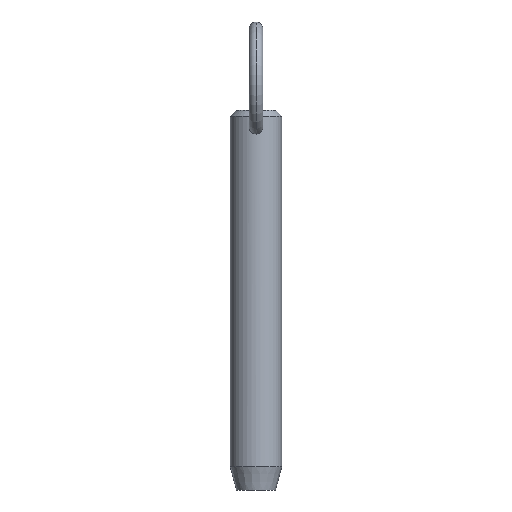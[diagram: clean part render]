
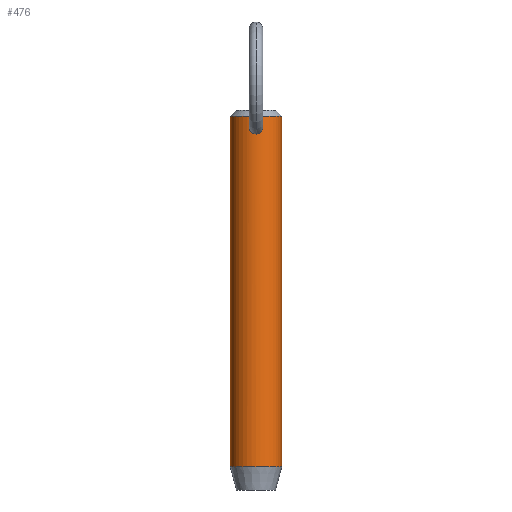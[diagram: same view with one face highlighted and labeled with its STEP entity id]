
A CAD part, front view. The second image highlights one B-rep face of the part: STEP entity #476.
In plain terms, the highlighted cylindrical face has radius 5.55 mm (diameter 11.1 mm), a partial arc.
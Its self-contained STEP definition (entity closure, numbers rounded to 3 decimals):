
#7 = VECTOR ( 'NONE', #30, 1000. ) ;
#11 = EDGE_CURVE ( 'NONE', #221, #245, #247, .T. ) ;
#22 = CARTESIAN_POINT ( 'NONE',  ( 1.486, -5.347, 64.174 ) ) ;
#30 = DIRECTION ( 'NONE',  ( 0., 0., -1. ) ) ;
#31 = CARTESIAN_POINT ( 'NONE',  ( 0.214, -5.547, 65.728 ) ) ;
#37 = EDGE_CURVE ( 'NONE', #245, #100, #113, .T. ) ;
#39 = CARTESIAN_POINT ( 'NONE',  ( -0.976, -5.464, 62.631 ) ) ;
#43 = EDGE_CURVE ( 'NONE', #221, #388, #328, .T. ) ;
#44 = ORIENTED_EDGE ( 'NONE', *, *, #92, .T. ) ;
#52 = CARTESIAN_POINT ( 'NONE',  ( 5.55, 0., -9.2 ) ) ;
#54 = CARTESIAN_POINT ( 'NONE',  ( 0., 0., 61. ) ) ;
#61 = CARTESIAN_POINT ( 'NONE',  ( 0.977, -5.464, 62.632 ) ) ;
#69 = CARTESIAN_POINT ( 'NONE',  ( 0.807, -5.492, 62.506 ) ) ;
#73 = CARTESIAN_POINT ( 'NONE',  ( 0., -5.55, 65.745 ) ) ;
#83 = CARTESIAN_POINT ( 'NONE',  ( 0., -5.55, 62.277 ) ) ;
#87 = EDGE_CURVE ( 'NONE', #100, #388, #508, .T. ) ;
#92 = EDGE_CURVE ( 'NONE', #359, #232, #276, .T. ) ;
#95 = CARTESIAN_POINT ( 'NONE',  ( 0.421, -5.535, 62.332 ) ) ;
#100 = VERTEX_POINT ( 'NONE', #292 ) ;
#101 = ORIENTED_EDGE ( 'NONE', *, *, #43, .F. ) ;
#102 = EDGE_CURVE ( 'NONE', #232, #359, #313, .T. ) ;
#104 = CARTESIAN_POINT ( 'NONE',  ( 0.786, -5.497, 65.457 ) ) ;
#105 = CARTESIAN_POINT ( 'NONE',  ( 5.55, 0., 61. ) ) ;
#108 = CARTESIAN_POINT ( 'NONE',  ( 0.106, -5.55, 65.745 ) ) ;
#112 = CARTESIAN_POINT ( 'NONE',  ( -0.212, -5.547, 62.288 ) ) ;
#113 = LINE ( 'NONE', #377, #7 ) ;
#114 = DIRECTION ( 'NONE',  ( 0., 0., 1. ) ) ;
#115 = CARTESIAN_POINT ( 'NONE',  ( 0., 0., -9.2 ) ) ;
#138 = DIRECTION ( 'NONE',  ( 0., 0., -1. ) ) ;
#139 = CARTESIAN_POINT ( 'NONE',  ( 1.503, -5.343, 63.859 ) ) ;
#141 = CARTESIAN_POINT ( 'NONE',  ( 1.055, -5.449, 62.705 ) ) ;
#142 = CARTESIAN_POINT ( 'NONE',  ( -0.416, -5.535, 65.667 ) ) ;
#146 = CARTESIAN_POINT ( 'NONE',  ( 1.194, -5.422, 64.971 ) ) ;
#152 = CARTESIAN_POINT ( 'NONE',  ( -0.211, -5.547, 65.729 ) ) ;
#153 = CARTESIAN_POINT ( 'NONE',  ( 0., -5.55, 65.745 ) ) ;
#154 = CYLINDRICAL_SURFACE ( 'NONE', #321, 5.55 ) ;
#156 = CARTESIAN_POINT ( 'NONE',  ( -1.485, -5.348, 64.179 ) ) ;
#159 = CARTESIAN_POINT ( 'NONE',  ( -0.785, -5.497, 65.458 ) ) ;
#163 = FACE_OUTER_BOUND ( 'NONE', #451, .T. ) ;
#182 = DIRECTION ( 'NONE',  ( 0., 0., -1. ) ) ;
#183 = ORIENTED_EDGE ( 'NONE', *, *, #87, .T. ) ;
#184 = AXIS2_PLACEMENT_3D ( 'NONE', #430, #182, #185 ) ;
#185 = DIRECTION ( 'NONE',  ( 1., 0., 0. ) ) ;
#188 = CARTESIAN_POINT ( 'NONE',  ( 0., -5.55, 62.277 ) ) ;
#189 = CARTESIAN_POINT ( 'NONE',  ( 1.26, -5.407, 62.943 ) ) ;
#192 = CARTESIAN_POINT ( 'NONE',  ( -1.26, -5.407, 62.942 ) ) ;
#198 = CARTESIAN_POINT ( 'NONE',  ( -1.054, -5.449, 62.704 ) ) ;
#199 = CARTESIAN_POINT ( 'NONE',  ( -0.107, -5.55, 62.277 ) ) ;
#217 = AXIS2_PLACEMENT_3D ( 'NONE', #115, #114, #404 ) ;
#221 = VERTEX_POINT ( 'NONE', #235 ) ;
#232 = VERTEX_POINT ( 'NONE', #153 ) ;
#235 = CARTESIAN_POINT ( 'NONE',  ( 5.55, 0., 66.05 ) ) ;
#236 = CARTESIAN_POINT ( 'NONE',  ( 0.523, -5.526, 62.366 ) ) ;
#241 = CARTESIAN_POINT ( 'NONE',  ( -0.42, -5.535, 62.332 ) ) ;
#245 = VERTEX_POINT ( 'NONE', #523 ) ;
#246 = CARTESIAN_POINT ( 'NONE',  ( -1.5, -5.343, 63.753 ) ) ;
#247 = CIRCLE ( 'NONE', #184, 5.55 ) ;
#248 = CARTESIAN_POINT ( 'NONE',  ( -1.503, -5.343, 63.859 ) ) ;
#256 = DIRECTION ( 'NONE',  ( -1., 0., 0. ) ) ;
#268 = CARTESIAN_POINT ( 'NONE',  ( 0.417, -5.535, 65.667 ) ) ;
#270 = CARTESIAN_POINT ( 'NONE',  ( 1.44, -5.36, 64.386 ) ) ;
#271 = CARTESIAN_POINT ( 'NONE',  ( 0.213, -5.547, 62.288 ) ) ;
#276 = B_SPLINE_CURVE_WITH_KNOTS ( 'NONE', 3,
 ( #354, #199, #112, #241, #524, #281, #356, #39, #198, #192, #484, #478, #521, #246, #248, #156, #364, #496, #525, #401, #159, #510, #142, #152, #402, #73 ),
 .UNSPECIFIED., .F., .F.,
 ( 4, 2, 2, 2, 2, 2, 2, 2, 2, 2, 2, 2, 4 ),
 ( 0.01, 0.01, 0.01, 0.011, 0.011, 0.012, 0.012, 0.012, 0.013, 0.013, 0.014, 0.014, 0.015 ),
 .UNSPECIFIED. ) ;
#277 = CARTESIAN_POINT ( 'NONE',  ( 0.716, -5.504, 62.452 ) ) ;
#281 = CARTESIAN_POINT ( 'NONE',  ( -0.716, -5.504, 62.452 ) ) ;
#292 = CARTESIAN_POINT ( 'NONE',  ( -5.55, 0., -9.2 ) ) ;
#313 = B_SPLINE_CURVE_WITH_KNOTS ( 'NONE', 3,
 ( #345, #108, #31, #268, #387, #104, #382, #146, #471, #270, #22, #139, #314, #390, #518, #434, #189, #141, #61, #69, #277, #236, #95, #271, #376, #188 ),
 .UNSPECIFIED., .F., .F.,
 ( 4, 2, 2, 2, 2, 2, 2, 2, 2, 2, 2, 2, 4 ),
 ( 0.005, 0.005, 0.005, 0.006, 0.006, 0.007, 0.007, 0.008, 0.008, 0.009, 0.009, 0.009, 0.01 ),
 .UNSPECIFIED. ) ;
#314 = CARTESIAN_POINT ( 'NONE',  ( 1.5, -5.343, 63.754 ) ) ;
#321 = AXIS2_PLACEMENT_3D ( 'NONE', #54, #330, #256 ) ;
#323 = EDGE_LOOP ( 'NONE', ( #446, #44 ) ) ;
#328 = LINE ( 'NONE', #105, #457 ) ;
#330 = DIRECTION ( 'NONE',  ( 0., 0., -1. ) ) ;
#336 = ORIENTED_EDGE ( 'NONE', *, *, #37, .T. ) ;
#345 = CARTESIAN_POINT ( 'NONE',  ( 0., -5.55, 65.745 ) ) ;
#352 = ORIENTED_EDGE ( 'NONE', *, *, #11, .T. ) ;
#354 = CARTESIAN_POINT ( 'NONE',  ( 0., -5.55, 62.277 ) ) ;
#356 = CARTESIAN_POINT ( 'NONE',  ( -0.807, -5.492, 62.505 ) ) ;
#359 = VERTEX_POINT ( 'NONE', #83 ) ;
#364 = CARTESIAN_POINT ( 'NONE',  ( -1.44, -5.36, 64.387 ) ) ;
#376 = CARTESIAN_POINT ( 'NONE',  ( 0.107, -5.55, 62.277 ) ) ;
#377 = CARTESIAN_POINT ( 'NONE',  ( -5.55, 0., 61. ) ) ;
#382 = CARTESIAN_POINT ( 'NONE',  ( 0.941, -5.471, 65.307 ) ) ;
#387 = CARTESIAN_POINT ( 'NONE',  ( 0.515, -5.527, 65.622 ) ) ;
#388 = VERTEX_POINT ( 'NONE', #52 ) ;
#390 = CARTESIAN_POINT ( 'NONE',  ( 1.477, -5.35, 63.544 ) ) ;
#401 = CARTESIAN_POINT ( 'NONE',  ( -0.939, -5.472, 65.31 ) ) ;
#402 = CARTESIAN_POINT ( 'NONE',  ( -0.106, -5.55, 65.745 ) ) ;
#404 = DIRECTION ( 'NONE',  ( -1., 0., 0. ) ) ;
#430 = CARTESIAN_POINT ( 'NONE',  ( 0., 0., 66.05 ) ) ;
#434 = CARTESIAN_POINT ( 'NONE',  ( 1.363, -5.38, 63.134 ) ) ;
#446 = ORIENTED_EDGE ( 'NONE', *, *, #102, .T. ) ;
#451 = EDGE_LOOP ( 'NONE', ( #101, #352, #336, #183 ) ) ;
#455 = FACE_BOUND ( 'NONE', #323, .T. ) ;
#457 = VECTOR ( 'NONE', #138, 1000. ) ;
#471 = CARTESIAN_POINT ( 'NONE',  ( 1.295, -5.397, 64.782 ) ) ;
#476 = ADVANCED_FACE ( 'NONE', ( #163, #455 ), #154, .T. ) ;
#478 = CARTESIAN_POINT ( 'NONE',  ( -1.455, -5.356, 63.436 ) ) ;
#484 = CARTESIAN_POINT ( 'NONE',  ( -1.362, -5.381, 63.132 ) ) ;
#496 = CARTESIAN_POINT ( 'NONE',  ( -1.294, -5.398, 64.786 ) ) ;
#508 = CIRCLE ( 'NONE', #217, 5.55 ) ;
#510 = CARTESIAN_POINT ( 'NONE',  ( -0.513, -5.527, 65.623 ) ) ;
#518 = CARTESIAN_POINT ( 'NONE',  ( 1.455, -5.356, 63.438 ) ) ;
#521 = CARTESIAN_POINT ( 'NONE',  ( -1.477, -5.35, 63.542 ) ) ;
#523 = CARTESIAN_POINT ( 'NONE',  ( -5.55, 0., 66.05 ) ) ;
#524 = CARTESIAN_POINT ( 'NONE',  ( -0.523, -5.526, 62.366 ) ) ;
#525 = CARTESIAN_POINT ( 'NONE',  ( -1.195, -5.421, 64.971 ) ) ;
